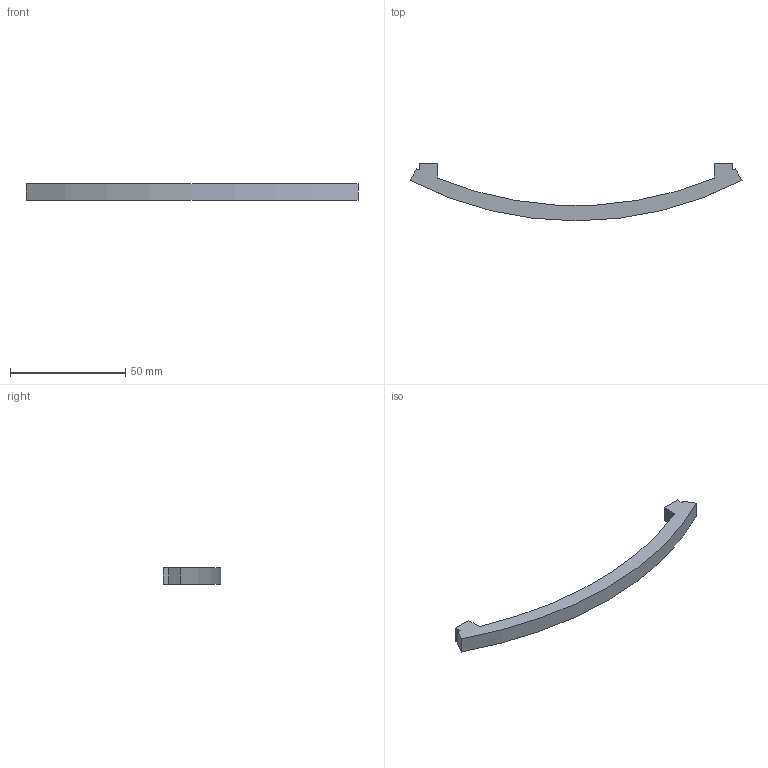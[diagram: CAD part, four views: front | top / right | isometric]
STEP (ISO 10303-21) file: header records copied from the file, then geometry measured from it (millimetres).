
FILE_DESCRIPTION( ( '' ), '1' );
FILE_NAME( 'D:/1.AUTOCAD EXPORT/Group 10/sheet_10_1/Remaining/9113684.stp', '2013-11-08T10:30:03', ( '' ), ( '' ), ' ', ' ', ' ' );
FILE_SCHEMA( ( 'CONFIG_CONTROL_DESIGN' ) );
Length unit declared in the file: millimetre
Products named in the file (1): 1
Bounding box: 143.99 x 25 x 7 mm (x, y, z)
Volume: 6869.8 mm3; surface area: 4440.2 mm2
Topology: 1 solids, 1 shells, 20 faces, 48 edges, 32 vertices
Faces by surface type: plane 12, cylinder 8
Entity records: 632 total; most frequent: DIRECTION 106, CARTESIAN_POINT 101, ORIENTED_EDGE 96, EDGE_CURVE 48, AXIS2_PLACEMENT_3D 37, VERTEX_POINT 32, LINE 32, VECTOR 32
